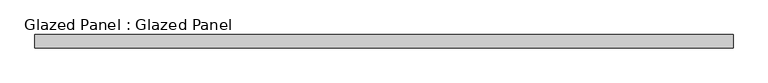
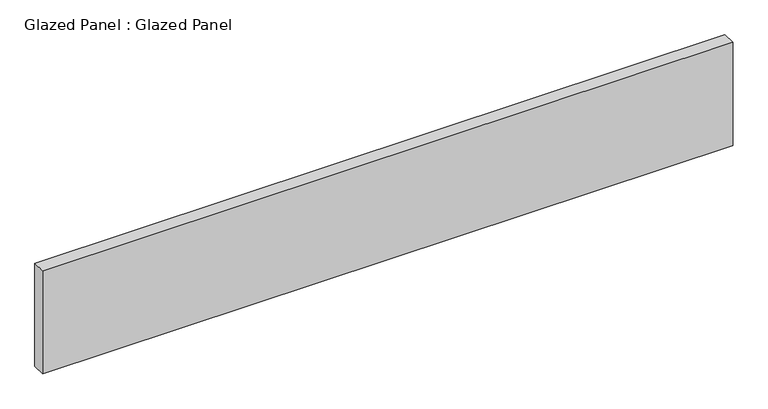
"""IFC4 building model written with IfcOpenShell, lengths in millimetres: plate geometry, Glazed Panel : Glazed Panel."""

from ifc_helpers import new_model, si_unit, origin, origin_with_axes, place, context, project, spatial, polyline, outline, extrude, source, transform, mapped, element, save


def glazed_panel_glazed_panel_cd81baf5(model_context):
    return source(origin(), model_context, "Body", "SweptSolid", [
        extrude(outline(polyline([(663.575, 38.1), (-663.575, 38.1), (-663.575, 63.5), (663.575, 63.5), (663.575, 38.1)])), origin_with_axes(), (0.0, 0.0, 1.0), 209.55),
    ])


if __name__ == "__main__":
    model = new_model("IFC4")
    model_context = context("Model", 3, world=origin())
    ifc_project = project(units=[si_unit("LENGTHUNIT", "METRE", prefix="MILLI")], contexts=[model_context])
    site = spatial("IfcSite", under=ifc_project)
    building = spatial("IfcBuilding", under=site)
    placement = place(None, origin())
    glazed_panel_glazed_panel_shape = glazed_panel_glazed_panel_cd81baf5(model_context)
    element("IfcPlate", 1, ObjectType="Glazed Panel : Glazed Panel", at=placement, inside=building, context=model_context, shape_type="MappedRepresentation", body=[
        mapped(glazed_panel_glazed_panel_shape, transform((0.0, 0.0, 0.0), x_axis=(1.0, 0.0, 0.0), y_axis=(0.0, 1.0, 0.0), z_axis=(0.0, 0.0, 1.0))),
    ])
    save(model, "model.ifc")
